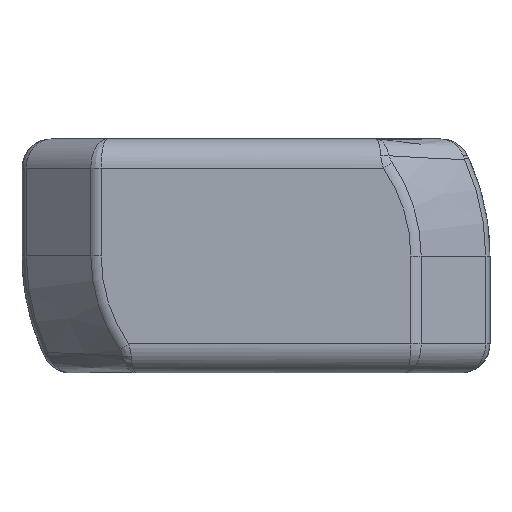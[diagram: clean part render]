
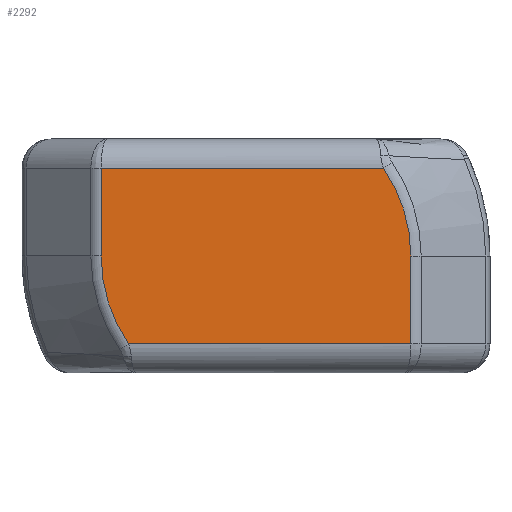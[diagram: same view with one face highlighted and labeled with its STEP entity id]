
A CAD part, front view. The second image highlights one B-rep face of the part: STEP entity #2292.
In plain terms, the highlighted planar face has unit normal (0, -1, 0).
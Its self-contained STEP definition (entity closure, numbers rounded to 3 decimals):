
#122=PLANE('',#2508);
#333=FACE_OUTER_BOUND('',#465,.T.);
#465=EDGE_LOOP('',(#2108,#2109,#2110,#2111,#2112,#2113));
#494=CIRCLE('',#2418,5.293);
#496=CIRCLE('',#2421,5.293);
#597=LINE('',#6693,#757);
#602=LINE('',#7156,#762);
#610=LINE('',#7400,#770);
#612=LINE('',#7414,#772);
#757=VECTOR('',#2720,1000.);
#762=VECTOR('',#2757,1000.);
#770=VECTOR('',#2793,1000.);
#772=VECTOR('',#2813,1000.);
#979=VERTEX_POINT('',#6661);
#982=VERTEX_POINT('',#6692);
#1004=VERTEX_POINT('',#7154);
#1005=VERTEX_POINT('',#7155);
#1018=VERTEX_POINT('',#7399);
#1021=VERTEX_POINT('',#7410);
#1243=EDGE_CURVE('',#982,#979,#597,.T.);
#1276=EDGE_CURVE('',#1004,#1005,#602,.T.);
#1299=EDGE_CURVE('',#1005,#1018,#610,.T.);
#1303=EDGE_CURVE('',#1018,#982,#494,.T.);
#1305=EDGE_CURVE('',#1021,#1004,#496,.T.);
#1307=EDGE_CURVE('',#979,#1021,#612,.T.);
#2108=ORIENTED_EDGE('',*,*,#1305,.T.);
#2109=ORIENTED_EDGE('',*,*,#1276,.T.);
#2110=ORIENTED_EDGE('',*,*,#1299,.T.);
#2111=ORIENTED_EDGE('',*,*,#1303,.T.);
#2112=ORIENTED_EDGE('',*,*,#1243,.T.);
#2113=ORIENTED_EDGE('',*,*,#1307,.T.);
#2292=ADVANCED_FACE('',(#333),#122,.F.);
#2418=AXIS2_PLACEMENT_3D('',#7406,#2801,#2802);
#2421=AXIS2_PLACEMENT_3D('',#7411,#2807,#2808);
#2508=AXIS2_PLACEMENT_3D('',#7650,#3073,#3074);
#2720=DIRECTION('',(-1.,0.,0.));
#2757=DIRECTION('',(1.,0.,0.));
#2793=DIRECTION('',(0.,0.,1.));
#2801=DIRECTION('center_axis',(0.,-1.,0.));
#2802=DIRECTION('ref_axis',(0.,0.,1.));
#2807=DIRECTION('center_axis',(0.,-1.,0.));
#2808=DIRECTION('ref_axis',(0.,0.,1.));
#2813=DIRECTION('',(0.,0.,-1.));
#3073=DIRECTION('center_axis',(0.,1.,0.));
#3074=DIRECTION('ref_axis',(1.,0.,0.));
#6661=CARTESIAN_POINT('',(-5.293,0.,3.));
#6692=CARTESIAN_POINT('',(4.361,0.,3.));
#6693=CARTESIAN_POINT('',(0.,0.,3.));
#7154=CARTESIAN_POINT('',(-4.361,0.,-3.));
#7155=CARTESIAN_POINT('',(5.293,0.,-3.));
#7156=CARTESIAN_POINT('',(0.,0.,-3.));
#7399=CARTESIAN_POINT('',(5.293,0.,0.));
#7400=CARTESIAN_POINT('',(5.293,0.,0.));
#7406=CARTESIAN_POINT('Origin',(0.,0.,0.));
#7410=CARTESIAN_POINT('',(-5.293,0.,0.));
#7411=CARTESIAN_POINT('Origin',(0.,0.,0.));
#7414=CARTESIAN_POINT('',(-5.293,0.,0.));
#7650=CARTESIAN_POINT('Origin',(0.,0.,0.));
